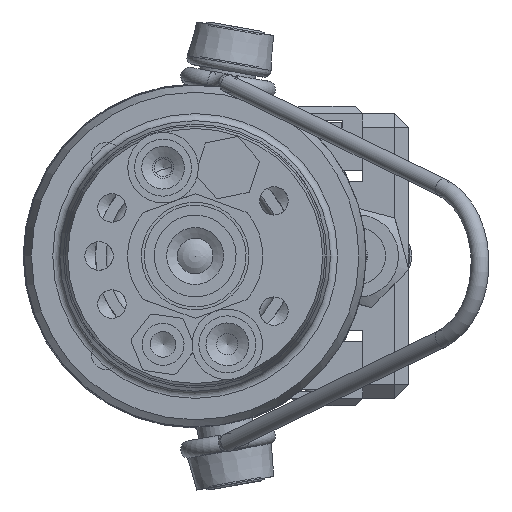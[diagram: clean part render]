
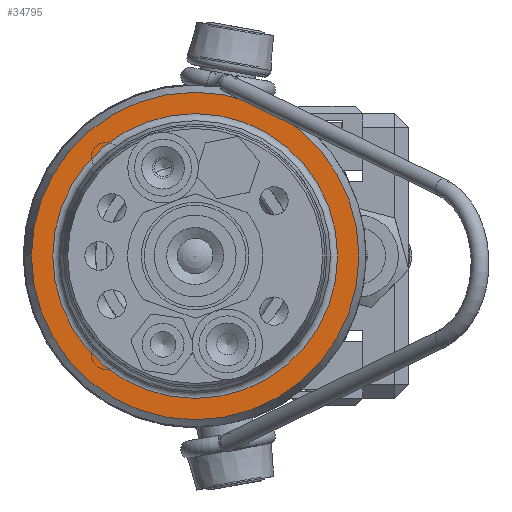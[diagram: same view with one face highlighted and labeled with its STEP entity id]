
A CAD part, left-side view. The second image highlights one B-rep face of the part: STEP entity #34795.
In plain terms, the highlighted planar face has unit normal (-1, 0, 0).
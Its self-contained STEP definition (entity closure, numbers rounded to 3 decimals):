
#7416=PLANE($,#38204);
#9152=FACE_BOUND($,#13397,.T.);
#10698=FACE_OUTER_BOUND($,#13396,.T.);
#13396=EDGE_LOOP($,(#29923));
#13397=EDGE_LOOP($,(#29924));
#15516=CIRCLE($,#38205,23.);
#15517=CIRCLE($,#38206,20.);
#18082=VERTEX_POINT($,#68345);
#18083=VERTEX_POINT($,#68347);
#22250=EDGE_CURVE($,#18082,#18082,#15516,.T.);
#22251=EDGE_CURVE($,#18083,#18083,#15517,.T.);
#29923=ORIENTED_EDGE($,*,*,#22250,.F.);
#29924=ORIENTED_EDGE($,*,*,#22251,.T.);
#34795=ADVANCED_FACE($,(#10698,#9152),#7416,.T.);
#38204=AXIS2_PLACEMENT_3D($,#68344,#45751,#45752);
#38205=AXIS2_PLACEMENT_3D($,#68346,#45753,#45754);
#38206=AXIS2_PLACEMENT_3D($,#68348,#45755,#45756);
#45751=DIRECTION('center_axis',(-1.,0.,0.));
#45752=DIRECTION('ref_axis',(0.,0.,1.));
#45753=DIRECTION('center_axis',(1.,0.,0.));
#45754=DIRECTION('ref_axis',(0.,1.,0.));
#45755=DIRECTION('center_axis',(1.,0.,0.));
#45756=DIRECTION('ref_axis',(0.,1.,0.));
#68344=CARTESIAN_POINT('Origin',(-7.5,21.5,0.));
#68345=CARTESIAN_POINT('',(-7.5,23.,0.));
#68346=CARTESIAN_POINT('Origin',(-7.5,0.,
0.));
#68347=CARTESIAN_POINT('',(-7.5,20.,0.));
#68348=CARTESIAN_POINT('Origin',(-7.5,0.,
0.));
